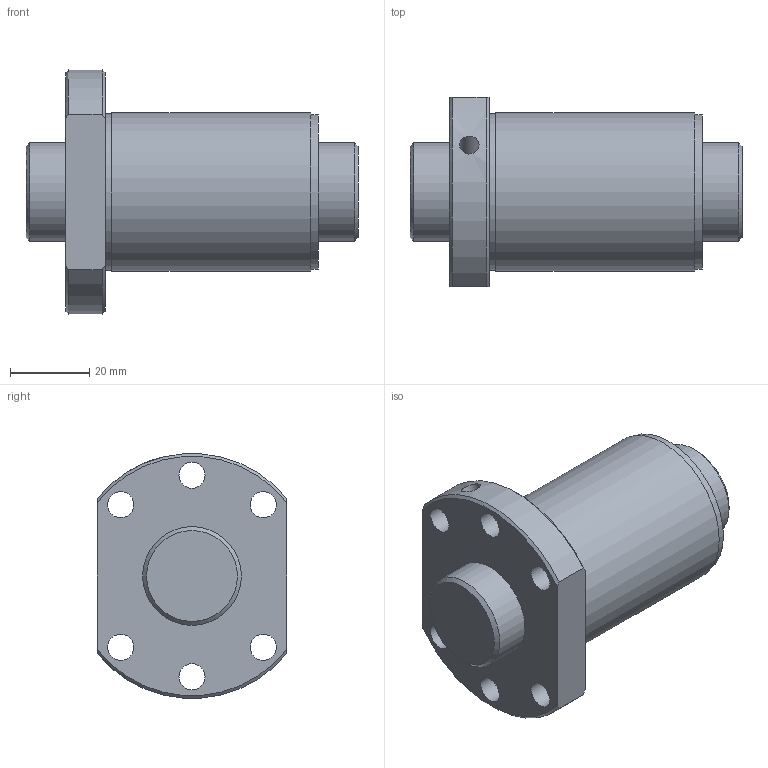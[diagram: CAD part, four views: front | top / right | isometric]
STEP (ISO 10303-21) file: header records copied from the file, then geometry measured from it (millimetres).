
FILE_DESCRIPTION(/* description */ ('STEP AP203'),/* implementation_level */ '2;1');
FILE_NAME(/* name */ 'SDA2530V-2G0+84LC0(0G000)',/* time_stamp */ '2024-05-28T11:30:50+02:00',/* author */ ('License CC BY-ND 4.0'),/* organization */ ('CADENAS'),/* preprocessor_version */ 'ST-DEVELOPER v19.3',/* originating_system */ 'PARTsolutions',/* authorisation */ ' ');
FILE_SCHEMA (('CONFIG_CONTROL_DESIGN'));
Length unit declared in the file: millimetre
Products named in the file (3): SDA2530V-2G0+84LC0(0G000); 000SDA2530V-20Shaft; SDA-V serieSDA2530V-2nut
Assembly tree (2 placements, depth 2):
  SDA2530V-2G0+84LC0(0G000)
    000SDA2530V-20Shaft
    SDA-V serieSDA2530V-2nut
Bounding box: 84 x 48 x 61.8 mm (x, y, z)
Volume: 101452.7 mm3; surface area: 26507.8 mm2
Topology: 2 solids, 2 shells, 31 faces, 74 edges, 50 vertices
Faces by surface type: cylinder 15, plane 9, cone 7
Full cylindrical faces by diameter (mm): 3.9 x1, 4.917 x1, 6.6 x6, 25 x2, 39 x1, 39.6 x1, 40 x1
Entity records: 915 total; most frequent: CARTESIAN_POINT 174, DIRECTION 144, ORIENTED_EDGE 104, AXIS2_PLACEMENT_3D 68, EDGE_LOOP 66, FACE_BOUND 66, EDGE_CURVE 52, VERTEX_POINT 44
